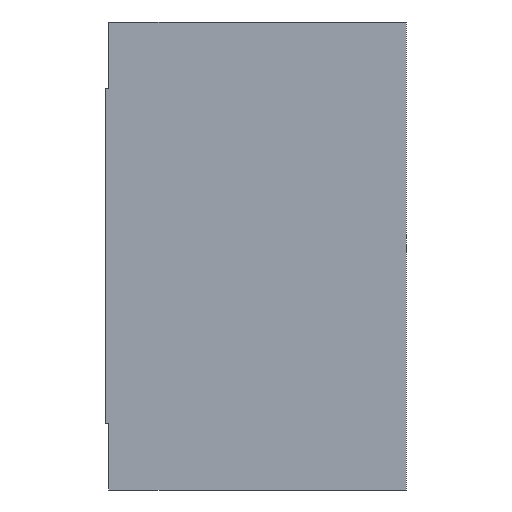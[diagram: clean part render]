
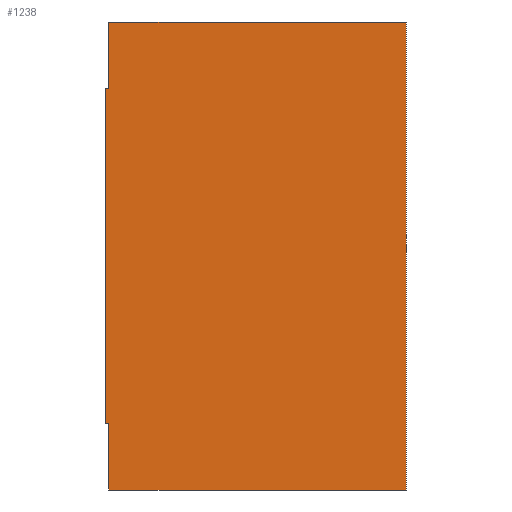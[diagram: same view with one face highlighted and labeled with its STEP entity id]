
A CAD part, left-side view. The second image highlights one B-rep face of the part: STEP entity #1238.
In plain terms, the highlighted planar face has unit normal (-1, 0, 0).
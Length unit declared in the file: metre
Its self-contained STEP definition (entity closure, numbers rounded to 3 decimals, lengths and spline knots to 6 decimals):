
#248=ORIENTED_EDGE('',*,*,#440,.T.);
#249=ORIENTED_EDGE('',*,*,#500,.F.);
#250=ORIENTED_EDGE('',*,*,#494,.T.);
#251=ORIENTED_EDGE('',*,*,#490,.T.);
#252=ORIENTED_EDGE('',*,*,#499,.F.);
#253=ORIENTED_EDGE('',*,*,#501,.T.);
#254=ORIENTED_EDGE('',*,*,#443,.F.);
#255=ORIENTED_EDGE('',*,*,#502,.F.);
#440=EDGE_CURVE('',#581,#583,#718,.T.);
#443=EDGE_CURVE('',#586,#587,#721,.T.);
#490=EDGE_CURVE('',#621,#622,#759,.T.);
#494=EDGE_CURVE('',#625,#621,#763,.T.);
#499=EDGE_CURVE('',#628,#622,#768,.T.);
#500=EDGE_CURVE('',#625,#583,#769,.T.);
#501=EDGE_CURVE('',#628,#587,#770,.T.);
#502=EDGE_CURVE('',#581,#586,#771,.T.);
#581=VERTEX_POINT('',#1857);
#583=VERTEX_POINT('',#1861);
#586=VERTEX_POINT('',#1868);
#587=VERTEX_POINT('',#1870);
#621=VERTEX_POINT('',#1969);
#622=VERTEX_POINT('',#1970);
#625=VERTEX_POINT('',#1978);
#628=VERTEX_POINT('',#1986);
#718=LINE('',#1862,#798);
#721=LINE('',#1869,#801);
#759=LINE('',#1968,#839);
#763=LINE('',#1977,#843);
#768=LINE('',#1987,#848);
#769=LINE('',#1989,#849);
#770=LINE('',#1990,#850);
#771=LINE('',#1991,#851);
#798=VECTOR('',#1476,1.);
#801=VECTOR('',#1481,1.);
#839=VECTOR('',#1573,1.);
#843=VECTOR('',#1579,1.);
#848=VECTOR('',#1586,1.);
#849=VECTOR('',#1589,1.);
#850=VECTOR('',#1590,1.);
#851=VECTOR('',#1591,1.);
#902=EDGE_LOOP('',(#248,#249,#250,#251,#252,#253,#254,#255));
#1044=FACE_BOUND('',#902,.T.);
#1203=PLANE('',#1349);
#1238=ADVANCED_FACE('',(#1044),#1203,.F.);
#1349=AXIS2_PLACEMENT_3D('',#1988,#1587,#1588);
#1476=DIRECTION('',(0.,-1.,0.));
#1481=DIRECTION('',(0.,-1.,0.));
#1573=DIRECTION('',(0.,0.,1.));
#1579=DIRECTION('',(0.,-1.,0.));
#1586=DIRECTION('',(0.,-1.,0.));
#1587=DIRECTION('',(1.,0.,0.));
#1588=DIRECTION('',(0.,0.,-1.));
#1589=DIRECTION('',(0.,0.,1.));
#1590=DIRECTION('',(0.,0.,-1.));
#1591=DIRECTION('',(0.,0.,1.));
#1857=CARTESIAN_POINT('',(0.,0.045,-0.06));
#1861=CARTESIAN_POINT('',(0.,0.0445,-0.06));
#1862=CARTESIAN_POINT('',(0.,0.045,-0.06));
#1868=CARTESIAN_POINT('',(0.,0.045,-0.01));
#1869=CARTESIAN_POINT('',(0.,0.045,-0.01));
#1870=CARTESIAN_POINT('',(0.,0.0445,-0.01));
#1968=CARTESIAN_POINT('',(0.,0.,0.));
#1969=CARTESIAN_POINT('',(0.,0.,-0.07));
#1970=CARTESIAN_POINT('',(0.,0.,0.));
#1977=CARTESIAN_POINT('',(0.,0.045,-0.07));
#1978=CARTESIAN_POINT('',(0.,0.0445,-0.07));
#1986=CARTESIAN_POINT('',(0.,0.0445,0.));
#1987=CARTESIAN_POINT('',(0.,0.045,0.));
#1988=CARTESIAN_POINT('',(0.,0.045,0.));
#1989=CARTESIAN_POINT('',(0.,0.0445,-0.07));
#1990=CARTESIAN_POINT('',(0.,0.0445,0.));
#1991=CARTESIAN_POINT('',(0.,0.045,0.));
